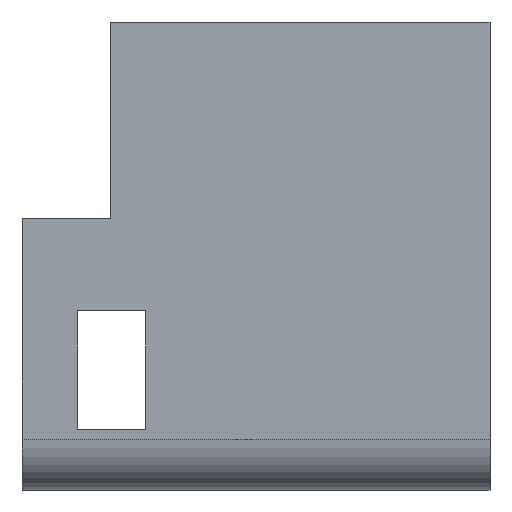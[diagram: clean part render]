
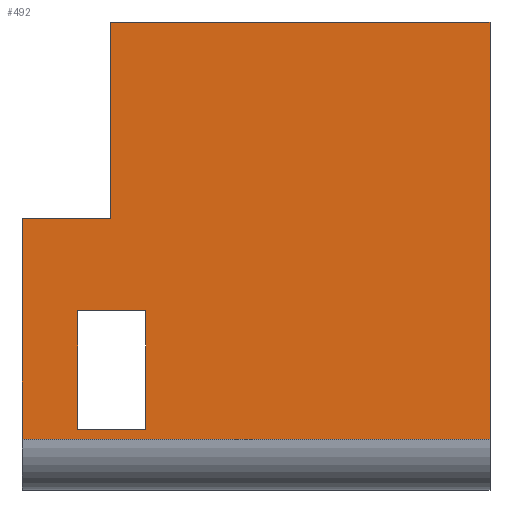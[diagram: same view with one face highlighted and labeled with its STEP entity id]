
A CAD part, front view. The second image highlights one B-rep face of the part: STEP entity #492.
In plain terms, the highlighted planar face has unit normal (0, -1, 0).
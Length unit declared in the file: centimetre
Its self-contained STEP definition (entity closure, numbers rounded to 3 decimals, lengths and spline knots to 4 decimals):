
#3 = DIRECTION ( 'NONE',  ( 0., 1., 0. ) ) ;
#28 = AXIS2_PLACEMENT_3D ( 'NONE', #1120, #3, #843 ) ;
#33 = CARTESIAN_POINT ( 'NONE',  ( 0., 0., 579.8918 ) ) ;
#43 = EDGE_CURVE ( 'NONE', #980, #608, #1146, .T. ) ;
#48 = ORIENTED_EDGE ( 'NONE', *, *, #1107, .T. ) ;
#56 = ORIENTED_EDGE ( 'NONE', *, *, #1060, .T. ) ;
#74 = EDGE_CURVE ( 'NONE', #508, #581, #575, .T. ) ;
#103 = DIRECTION ( 'NONE',  ( 1., 0., 0. ) ) ;
#125 = ORIENTED_EDGE ( 'NONE', *, *, #208, .T. ) ;
#172 = VERTEX_POINT ( 'NONE', #360 ) ;
#193 = CARTESIAN_POINT ( 'NONE',  ( 119.1385, 0., 128.945 ) ) ;
#197 = CARTESIAN_POINT ( 'NONE',  ( 188.6596, 0., 579.8918 ) ) ;
#208 = EDGE_CURVE ( 'NONE', #508, #614, #448, .T. ) ;
#211 = LINE ( 'NONE', #971, #885 ) ;
#212 = CARTESIAN_POINT ( 'NONE',  ( 119.1385, 0., 383.0488 ) ) ;
#228 = ORIENTED_EDGE ( 'NONE', *, *, #74, .F. ) ;
#254 = EDGE_CURVE ( 'NONE', #608, #172, #515, .T. ) ;
#256 = ORIENTED_EDGE ( 'NONE', *, *, #423, .T. ) ;
#312 = DIRECTION ( 'NONE',  ( 1., 0., 0. ) ) ;
#360 = CARTESIAN_POINT ( 'NONE',  ( 1000., 0., 108.6778 ) ) ;
#371 = VECTOR ( 'NONE', #664, 100. ) ;
#373 = CARTESIAN_POINT ( 'NONE',  ( 119.1385, 0., 383.0488 ) ) ;
#377 = EDGE_CURVE ( 'NONE', #581, #980, #1205, .T. ) ;
#378 = CARTESIAN_POINT ( 'NONE',  ( 188.6596, 0., 579.8918 ) ) ;
#380 = EDGE_CURVE ( 'NONE', #528, #923, #949, .T. ) ;
#384 = PLANE ( 'NONE',  #28 ) ;
#398 = VERTEX_POINT ( 'NONE', #193 ) ;
#403 = CARTESIAN_POINT ( 'NONE',  ( 0., 0., 108.6778 ) ) ;
#412 = CARTESIAN_POINT ( 'NONE',  ( 1000., 0., 1000. ) ) ;
#414 = VECTOR ( 'NONE', #770, 100. ) ;
#423 = EDGE_CURVE ( 'NONE', #398, #528, #742, .T. ) ;
#440 = CARTESIAN_POINT ( 'NONE',  ( 264.7048, 0., 128.945 ) ) ;
#448 = LINE ( 'NONE', #1092, #607 ) ;
#465 = CARTESIAN_POINT ( 'NONE',  ( 264.7048, 0., 128.945 ) ) ;
#476 = CARTESIAN_POINT ( 'NONE',  ( 264.7048, 0., 383.0488 ) ) ;
#483 = FACE_BOUND ( 'NONE', #1072, .T. ) ;
#492 = ADVANCED_FACE ( 'NONE', ( #483, #1210 ), #384, .F. ) ;
#508 = VERTEX_POINT ( 'NONE', #33 ) ;
#515 = LINE ( 'NONE', #970, #1160 ) ;
#521 = EDGE_CURVE ( 'NONE', #614, #172, #957, .T. ) ;
#528 = VERTEX_POINT ( 'NONE', #212 ) ;
#529 = VECTOR ( 'NONE', #659, 100. ) ;
#575 = LINE ( 'NONE', #197, #892 ) ;
#581 = VERTEX_POINT ( 'NONE', #612 ) ;
#607 = VECTOR ( 'NONE', #1179, 100. ) ;
#608 = VERTEX_POINT ( 'NONE', #412 ) ;
#612 = CARTESIAN_POINT ( 'NONE',  ( 188.6596, 0., 579.8918 ) ) ;
#614 = VERTEX_POINT ( 'NONE', #683 ) ;
#637 = ORIENTED_EDGE ( 'NONE', *, *, #43, .F. ) ;
#659 = DIRECTION ( 'NONE',  ( 1., 0., 0. ) ) ;
#664 = DIRECTION ( 'NONE',  ( 0., 0., 1. ) ) ;
#675 = CARTESIAN_POINT ( 'NONE',  ( 188.6596, 0., 1000. ) ) ;
#683 = CARTESIAN_POINT ( 'NONE',  ( 0., 0., 108.6778 ) ) ;
#685 = CARTESIAN_POINT ( 'NONE',  ( 0., 0., 1000. ) ) ;
#728 = DIRECTION ( 'NONE',  ( 0., 0., -1. ) ) ;
#742 = LINE ( 'NONE', #848, #371 ) ;
#770 = DIRECTION ( 'NONE',  ( 1., 0., 0. ) ) ;
#787 = ORIENTED_EDGE ( 'NONE', *, *, #380, .T. ) ;
#797 = ORIENTED_EDGE ( 'NONE', *, *, #521, .T. ) ;
#833 = DIRECTION ( 'NONE',  ( 0., 0., 1. ) ) ;
#835 = VERTEX_POINT ( 'NONE', #465 ) ;
#843 = DIRECTION ( 'NONE',  ( 0., 0., 1. ) ) ;
#848 = CARTESIAN_POINT ( 'NONE',  ( 119.1385, 0., 128.945 ) ) ;
#867 = DIRECTION ( 'NONE',  ( -1., 0., 0. ) ) ;
#878 = DIRECTION ( 'NONE',  ( 0., 0., -1. ) ) ;
#885 = VECTOR ( 'NONE', #867, 100. ) ;
#891 = VECTOR ( 'NONE', #833, 100. ) ;
#892 = VECTOR ( 'NONE', #103, 100. ) ;
#916 = VECTOR ( 'NONE', #728, 100. ) ;
#923 = VERTEX_POINT ( 'NONE', #476 ) ;
#924 = ORIENTED_EDGE ( 'NONE', *, *, #254, .F. ) ;
#949 = LINE ( 'NONE', #373, #529 ) ;
#957 = LINE ( 'NONE', #403, #414 ) ;
#970 = CARTESIAN_POINT ( 'NONE',  ( 1000., 0., 1000. ) ) ;
#971 = CARTESIAN_POINT ( 'NONE',  ( 119.1385, 0., 128.945 ) ) ;
#980 = VERTEX_POINT ( 'NONE', #675 ) ;
#1060 = EDGE_CURVE ( 'NONE', #835, #398, #211, .T. ) ;
#1072 = EDGE_LOOP ( 'NONE', ( #56, #256, #787, #48 ) ) ;
#1080 = EDGE_LOOP ( 'NONE', ( #637, #1103, #228, #125, #797, #924 ) ) ;
#1092 = CARTESIAN_POINT ( 'NONE',  ( 0., 0., 1000. ) ) ;
#1103 = ORIENTED_EDGE ( 'NONE', *, *, #377, .F. ) ;
#1107 = EDGE_CURVE ( 'NONE', #923, #835, #1177, .T. ) ;
#1120 = CARTESIAN_POINT ( 'NONE',  ( 0., 0., 1000. ) ) ;
#1146 = LINE ( 'NONE', #685, #1198 ) ;
#1160 = VECTOR ( 'NONE', #878, 100. ) ;
#1177 = LINE ( 'NONE', #440, #916 ) ;
#1179 = DIRECTION ( 'NONE',  ( 0., 0., -1. ) ) ;
#1198 = VECTOR ( 'NONE', #312, 100. ) ;
#1205 = LINE ( 'NONE', #378, #891 ) ;
#1210 = FACE_OUTER_BOUND ( 'NONE', #1080, .T. ) ;
